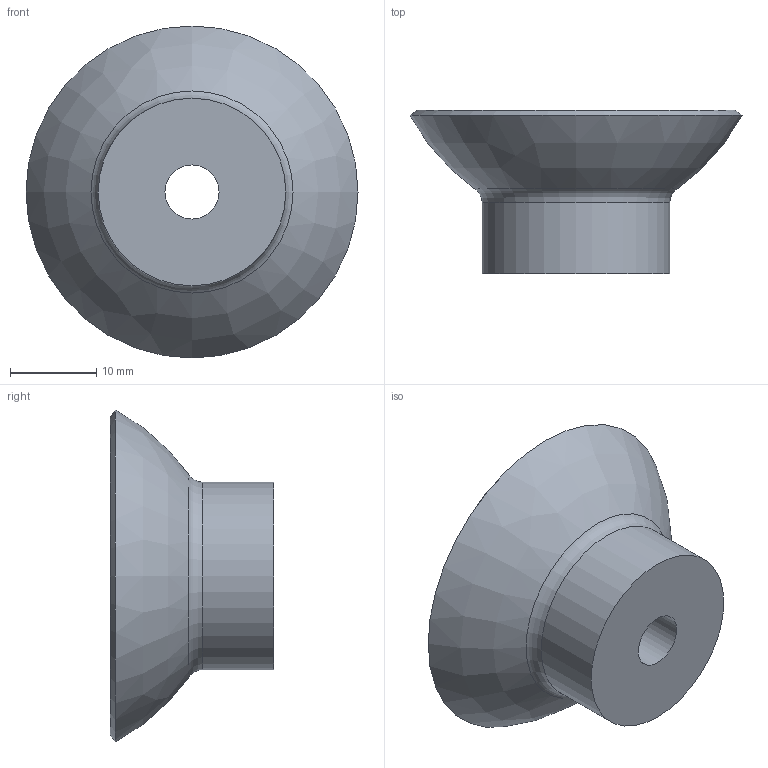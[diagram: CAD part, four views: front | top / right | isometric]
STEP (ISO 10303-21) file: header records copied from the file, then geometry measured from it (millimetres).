
FILE_DESCRIPTION (( 'STEP AP214' ), '1' );
FILE_NAME ('10F.039.100.STEP', '2024-03-13T12:50:26', ( '' ), ( '' ), 'SwSTEP 2.0', 'SolidWorks 2018', '' );
FILE_SCHEMA (( 'AUTOMOTIVE_DESIGN' ));
Length unit declared in the file: millimetre
Products named in the file (1): 10F.039.100
Bounding box: 38.6 x 19 x 38.6 mm (x, y, z)
Volume: 5678.2 mm3; surface area: 4079.1 mm2
Topology: 1 solids, 1 shells, 35 faces, 69 edges, 48 vertices
Faces by surface type: cylinder 16, plane 15, bspline 2, torus 1, cone 1
Full cylindrical faces by diameter (mm): 2.8 x12, 6.3 x1, 8 x1, 14.6 x1, 21.8 x1
Entity records: 2288 total; most frequent: CARTESIAN_POINT 1696, DIRECTION 114, EDGE_LOOP 70, ORIENTED_EDGE 70, AXIS2_PLACEMENT_3D 57, FACE_OUTER_BOUND 54, ADVANCED_FACE 35, EDGE_CURVE 35
